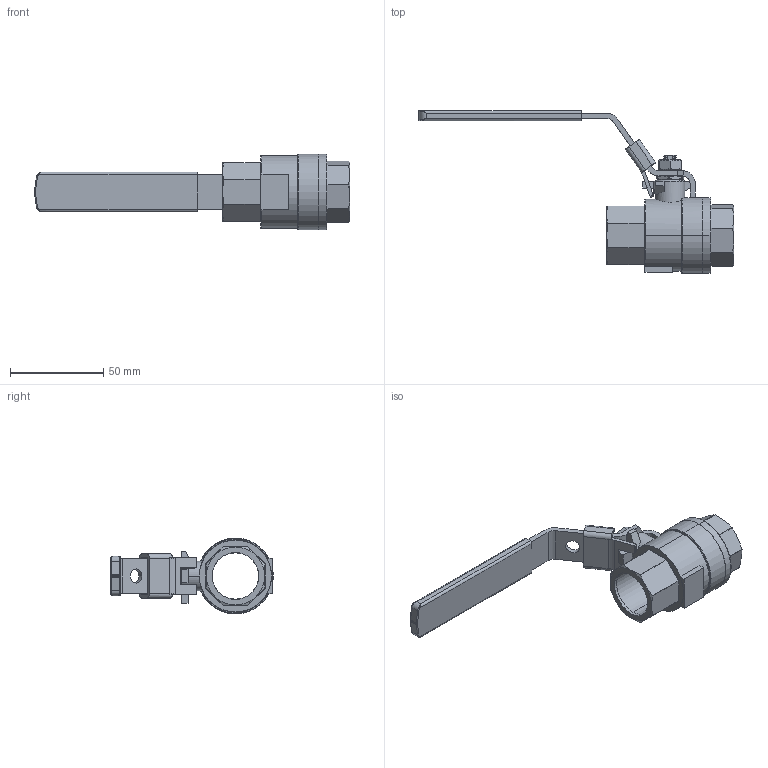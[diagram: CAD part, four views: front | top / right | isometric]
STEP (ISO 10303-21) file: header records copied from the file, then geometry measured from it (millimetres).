
FILE_DESCRIPTION (( 'STEP AP203' ), '1' );
FILE_NAME ('SGF-6.STEP', '2022-03-21T17:10:24', ( '' ), ( '' ), 'SwSTEP 2.0', 'SolidWorks 2021', '' );
FILE_SCHEMA (( 'CONFIG_CONTROL_DESIGN' ));
Length unit declared in the file: inch
Products named in the file (4): SGF-6; SGF-6_open; sgf-6-nut; SGF-8-HANDLE
Assembly tree (3 placements, depth 2):
  SGF-6
    SGF-6_open
    SGF-8-HANDLE
    sgf-6-nut
Bounding box: 169.56 x 87.35 x 40.71 mm (x, y, z)
Volume: 52881.9 mm3; surface area: 33568.9 mm2
Topology: 9 solids, 9 shells, 448 faces, 1193 edges, 761 vertices
Faces by surface type: cylinder 156, plane 142, bspline 68, cone 46, torus 34, sphere 2
Entity records: 35231 total; most frequent: CARTESIAN_POINT 24576, ORIENTED_EDGE 2370, DIRECTION 1932, EDGE_CURVE 1185, VERTEX_POINT 759, AXIS2_PLACEMENT_3D 721, LINE 490, VECTOR 490
